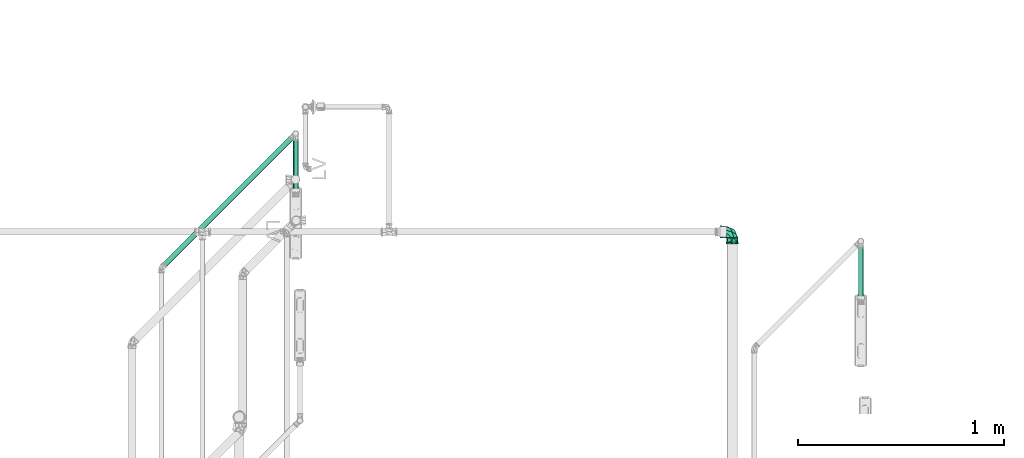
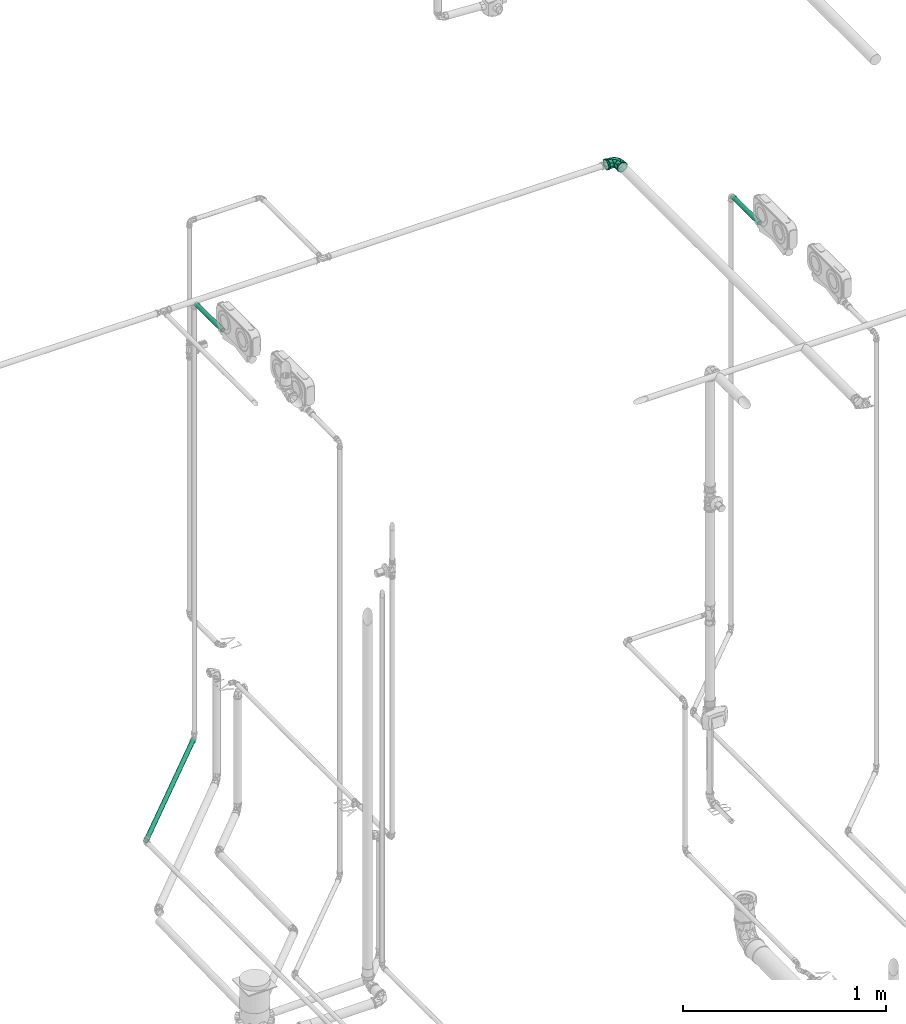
# One storey, part 108 of 589: 3 flow segments, 1 flow fitting.
"""IFC2X3 building model written with IfcOpenShell, lengths in millimetres."""

from ifc_helpers import new_model, entity, si_unit, converted_unit, derived_unit, direction, frame, frame_2d, origin, origin_2d_with_axis, place, context, subcontext, project, spatial, circle, extrude, faceted_brep, source, transform, mapped, material, type_object, type_shapes, element, save


model = new_model("IFC2X3")

# Units and contexts
model_context = context("Model", 3, precision=0.01, world=origin(), true_north=direction((6.123031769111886e-17, 1.0)))
body_context = subcontext(model_context, "Body", "Model", "MODEL_VIEW")
ifc_project = project(units=[si_unit("LENGTHUNIT", "METRE", prefix="MILLI"), si_unit("AREAUNIT", "SQUARE_METRE"), si_unit("VOLUMEUNIT", "CUBIC_METRE"), converted_unit("PLANEANGLEUNIT", "DEGREE", entity("IfcRatioMeasure", 0.017453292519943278), si_unit("PLANEANGLEUNIT", "RADIAN"), dimensions=[0, 0, 0, 0, 0, 0, 0]), si_unit("MASSUNIT", "GRAM", prefix="KILO"), derived_unit("MASSDENSITYUNIT", [(si_unit("MASSUNIT", "GRAM", prefix="KILO"), 1), (si_unit("LENGTHUNIT", "METRE"), -3)]), derived_unit("IONCONCENTRATIONUNIT", [(si_unit("MASSUNIT", "GRAM", prefix="KILO"), 1), (si_unit("LENGTHUNIT", "METRE"), -3)]), derived_unit("MOMENTOFINERTIAUNIT", [(si_unit("LENGTHUNIT", "METRE"), 4)]), si_unit("TIMEUNIT", "SECOND"), si_unit("FREQUENCYUNIT", "HERTZ"), si_unit("THERMODYNAMICTEMPERATUREUNIT", "DEGREE_CELSIUS"), derived_unit("THERMALTRANSMITTANCEUNIT", [(si_unit("MASSUNIT", "GRAM", prefix="KILO"), 1), (si_unit("THERMODYNAMICTEMPERATUREUNIT", "KELVIN"), -1), (si_unit("TIMEUNIT", "SECOND"), -3)]), derived_unit("THERMALCONDUCTANCEUNIT", [(si_unit("MASSUNIT", "GRAM", prefix="KILO"), 1), (si_unit("THERMODYNAMICTEMPERATUREUNIT", "KELVIN"), -1), (si_unit("TIMEUNIT", "SECOND"), -3), (si_unit("LENGTHUNIT", "METRE"), 1)]), derived_unit("VOLUMETRICFLOWRATEUNIT", [(si_unit("LENGTHUNIT", "METRE"), 3), (si_unit("TIMEUNIT", "SECOND"), -1)]), derived_unit("MASSFLOWRATEUNIT", [(si_unit("MASSUNIT", "GRAM", prefix="KILO"), 1), (si_unit("TIMEUNIT", "SECOND"), -1)]), derived_unit("ROTATIONALFREQUENCYUNIT", [(si_unit("TIMEUNIT", "SECOND"), -1)]), si_unit("ELECTRICCURRENTUNIT", "AMPERE"), si_unit("ELECTRICVOLTAGEUNIT", "VOLT"), si_unit("POWERUNIT", "WATT"), si_unit("FORCEUNIT", "NEWTON", prefix="KILO"), si_unit("ILLUMINANCEUNIT", "LUX"), si_unit("LUMINOUSFLUXUNIT", "LUMEN"), si_unit("LUMINOUSINTENSITYUNIT", "CANDELA"), derived_unit("USERDEFINED", [(si_unit("MASSUNIT", "GRAM", prefix="KILO"), -1), (si_unit("LENGTHUNIT", "METRE"), -2), (si_unit("TIMEUNIT", "SECOND"), 3), (si_unit("LUMINOUSFLUXUNIT", "LUMEN"), 1)]), derived_unit("USERDEFINED", [(si_unit("MASSUNIT", "GRAM", prefix="KILO"), 1), (si_unit("TIMEUNIT", "SECOND"), -3), (si_unit("LENGTHUNIT", "METRE"), 3), (si_unit("ELECTRICCURRENTUNIT", "AMPERE"), -2)]), derived_unit("SOUNDPOWERUNIT", [(si_unit("MASSUNIT", "GRAM", prefix="KILO"), 1), (si_unit("TIMEUNIT", "SECOND"), -3), (si_unit("LENGTHUNIT", "METRE"), 2)]), derived_unit("SOUNDPRESSUREUNIT", [(si_unit("MASSUNIT", "GRAM", prefix="KILO"), 1), (si_unit("LENGTHUNIT", "METRE"), -1), (si_unit("TIMEUNIT", "SECOND"), -2)]), derived_unit("LINEARVELOCITYUNIT", [(si_unit("LENGTHUNIT", "METRE"), 1), (si_unit("TIMEUNIT", "SECOND"), -1)]), si_unit("PRESSUREUNIT", "PASCAL"), derived_unit("USERDEFINED", [(si_unit("MASSUNIT", "GRAM", prefix="KILO"), 1), (si_unit("LENGTHUNIT", "METRE"), -2), (si_unit("TIMEUNIT", "SECOND"), -2)]), derived_unit("LINEARFORCEUNIT", [(si_unit("MASSUNIT", "GRAM", prefix="KILO"), 1), (si_unit("TIMEUNIT", "SECOND"), -2)]), derived_unit("PLANARFORCEUNIT", [(si_unit("MASSUNIT", "GRAM", prefix="KILO"), 1), (si_unit("LENGTHUNIT", "METRE"), -1), (si_unit("TIMEUNIT", "SECOND"), -2)]), derived_unit("SPECIFICHEATCAPACITYUNIT", [(si_unit("THERMODYNAMICTEMPERATUREUNIT", "KELVIN"), -1), (si_unit("LENGTHUNIT", "METRE"), 2), (si_unit("TIMEUNIT", "SECOND"), -2)]), derived_unit("HEATINGVALUEUNIT", [(si_unit("LENGTHUNIT", "METRE"), 2), (si_unit("TIMEUNIT", "SECOND"), -2)]), derived_unit("VAPORPERMEABILITYUNIT", [(si_unit("LENGTHUNIT", "METRE"), -1), (si_unit("TIMEUNIT", "SECOND"), 1)]), derived_unit("DYNAMICVISCOSITYUNIT", [(si_unit("MASSUNIT", "GRAM", prefix="KILO"), 1), (si_unit("TIMEUNIT", "SECOND"), -1), (si_unit("LENGTHUNIT", "METRE"), -1)]), derived_unit("THERMALEXPANSIONCOEFFICIENTUNIT", [(si_unit("THERMODYNAMICTEMPERATUREUNIT", "KELVIN"), -1)]), derived_unit("MODULUSOFELASTICITYUNIT", [(si_unit("MASSUNIT", "GRAM", prefix="KILO"), 1), (si_unit("LENGTHUNIT", "METRE"), -1), (si_unit("TIMEUNIT", "SECOND"), -2)]), derived_unit("ISOTHERMALMOISTURECAPACITYUNIT", [(si_unit("LENGTHUNIT", "METRE"), 3), (si_unit("MASSUNIT", "GRAM", prefix="KILO"), -1)]), derived_unit("MOISTUREDIFFUSIVITYUNIT", [(si_unit("TIMEUNIT", "SECOND"), -1), (si_unit("LENGTHUNIT", "METRE"), 2)])], contexts=[model_context])

# Site, building, storey
site_placement = place(None, origin())
site = spatial("IfcSite", under=ifc_project, at=site_placement, Name="Default", CompositionType="ELEMENT")
building_placement = place(site_placement, origin())
building = spatial("IfcBuilding", under=site, at=building_placement, CompositionType="ELEMENT")
storey_placement = place(building_placement, frame((0.0, 0.0, 100.0)))
storey = spatial("IfcBuildingStorey", under=building, at=storey_placement, Name="TÉRREO", CompositionType="ELEMENT", Elevation=100.0)

# Flow segments
pipe_segment_type = type_object("IfcPipeSegmentType", Name="Tipos de tubos:PVC Marrom Soldável", PredefinedType="NOTDEFINED")
flow_segment_1_placement = place(storey_placement, origin())
element("IfcFlowSegment", 1, at=flow_segment_1_placement, inside=storey, type_object=pipe_segment_type, Name="Tipos de tubos:PVC Marrom Soldável", ObjectType="Tipos de tubos:PVC Marrom Soldável", context=body_context, shape_type="SweptSolid", body=[
    extrude(circle(Radius=12.5, at=origin_2d_with_axis()), frame((3131.1245078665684, -6530.365493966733, 2579.1995800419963), z_axis=(0.0, 0.9999500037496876, -0.009999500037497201), x_axis=(1.0, 0.0, 0.0)), (0.0, 0.0, 1.0), 266.0970462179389),
])
flow_segment_2_placement = place(storey_placement, origin())
element("IfcFlowSegment", 2, at=flow_segment_2_placement, inside=storey, type_object=pipe_segment_type, Name="Tipos de tubos:PVC Marrom Soldável", ObjectType="Tipos de tubos:PVC Marrom Soldável", context=body_context, shape_type="SweptSolid", body=[
    extrude(circle(Radius=12.5, at=frame_2d((2.3914394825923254e-14, 7.878902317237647e-08), x_axis=(1.0, 0.0))), frame((-262.9865777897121, -6373.265741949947, -37.35714501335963), z_axis=(0.7071067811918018, 0.7071067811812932, 0.0), x_axis=(-0.7071067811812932, 0.7071067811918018, 0.0)), (0.0, 0.0, 1.0), 899.5650377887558),
])
flow_segment_3_placement = place(storey_placement, origin())
element("IfcFlowSegment", 3, at=flow_segment_3_placement, inside=storey, type_object=pipe_segment_type, Name="Tipos de tubos:PVC Marrom Soldável", ObjectType="Tipos de tubos:PVC Marrom Soldável", context=body_context, shape_type="SweptSolid", body=[
    extrude(circle(Radius=12.5, at=frame_2d((6.767919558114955e-14, -1.0828129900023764e-14), x_axis=(1.0, 0.0))), frame((384.83992247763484, -6007.964369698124, 2579.1995800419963), z_axis=(0.0, 0.9999500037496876, -0.009999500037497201), x_axis=(1.0, 0.0, 0.0)), (0.0, 0.0, 1.0), 266.0970462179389),
])

# Flow fitting
ifc_material = material(Name="PVC Marrom")
pipe_fitting_type = type_object("IfcPipeFittingType", Name="PVC Marrom Soldável_Joelho 45°_90°_Rodrigo MEP:Joelho", PredefinedType="NOTDEFINED", material=ifc_material)
shared_shape = source(origin(), body_context, "Body", "Brep", [
    faceted_brep([(-28.650000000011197, 29.100000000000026, 0.0), (-24.811627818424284, 29.100000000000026, 14.324999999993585), (-16.11339673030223, 29.100000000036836, 20.999387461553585), (-7.415165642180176, 29.10000000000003, 27.673774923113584), (7.415165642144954, 29.100000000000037, 27.67377492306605), (16.113396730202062, 29.100000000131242, 20.99938746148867), (24.811627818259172, 29.100000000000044, 14.324999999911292), (28.649999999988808, 29.100000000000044, 0.0), (24.811627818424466, 29.100000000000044, -14.32500000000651), (16.113396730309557, 29.09999999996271, -20.99938746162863), (7.41516564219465, 29.100000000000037, -27.673774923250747), (-7.4151656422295, 29.10000000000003, -27.673774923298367), (-16.11339673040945, 29.099999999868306, -20.999387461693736), (-24.811627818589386, 29.100000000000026, -14.325000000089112), (7.026937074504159, 27.400000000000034, 26.2248861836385), (-7.026937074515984, 27.400000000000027, 26.224886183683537), (-15.269763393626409, 27.400000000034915, 19.899943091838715), (-23.512589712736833, 27.400000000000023, 13.574999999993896), (-27.150000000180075, 27.400000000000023, 0.0), (-23.512589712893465, 27.400000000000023, -13.575000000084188), (-15.269763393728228, 27.39999999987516, -19.899943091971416), (-7.02693707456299, 27.400000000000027, -26.224886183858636), (7.026937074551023, 27.400000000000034, -26.224886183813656), (15.269763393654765, 27.399999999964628, -19.899943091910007), (23.51258971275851, 27.40000000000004, -13.575000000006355), (27.149999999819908, 27.40000000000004, 0.0), (23.512589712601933, 27.40000000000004, 13.574999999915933), (15.269763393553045, 27.400000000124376, 19.899943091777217)], [[[0, 1, 2, 3, 4, 5, 6, 7, 8, 9, 10, 11, 12, 13]], [[14, 15, 16, 17, 18, 19, 20, 21, 22, 23, 24, 25, 26, 27]], [[8, 7, 25, 24]], [[10, 9, 8, 24, 23, 22]], [[20, 19, 13, 12, 11, 21]], [[22, 21, 11, 10]], [[0, 13, 19, 18]], [[1, 0, 18, 17]], [[3, 2, 1, 17, 16, 15]], [[27, 26, 6, 5, 4, 14]], [[15, 14, 4, 3]], [[7, 6, 26, 25]]]),
    faceted_brep([(-29.09999999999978, -28.650000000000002, 0.0), (-29.09999999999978, -24.811627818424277, 14.32500000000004), (-29.09999999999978, -16.113396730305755, 20.99938746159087), (-29.09999999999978, -7.415165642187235, 27.673774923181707), (-29.09999999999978, 7.415165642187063, 27.6737749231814), (-29.10000000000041, 16.113396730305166, 20.999387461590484), (-29.09999999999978, 24.81162781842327, 14.324999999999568), (-29.09999999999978, 28.649999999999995, 0.0), (-29.09999999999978, 24.811627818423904, -14.324999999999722), (-29.10000000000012, 16.11339673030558, -20.999387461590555), (-29.09999999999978, 7.415165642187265, -27.67377492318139), (-29.09999999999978, -7.415165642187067, -27.67377492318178), (-29.099999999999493, -16.113396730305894, -20.99938746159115), (-29.09999999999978, -24.81162781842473, -14.325000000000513), (-27.39999999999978, 23.512589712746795, 13.574999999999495), (-27.40000000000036, 15.269763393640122, 19.89994309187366), (-27.39999999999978, 7.026937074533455, 26.22488618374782), (-27.39999999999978, -7.02693707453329, 26.224886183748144), (-27.399999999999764, -15.269763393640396, 19.89994309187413), (-27.39999999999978, -23.512589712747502, 13.575000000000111), (-27.39999999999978, -27.150000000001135, 0.0), (-27.39999999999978, -23.51258971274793, -13.575000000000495), (-27.399999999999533, -15.269763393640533, -19.899943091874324), (-27.39999999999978, -7.026937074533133, -26.224886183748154), (-27.39999999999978, 7.026937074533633, -26.22488618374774), (-27.400000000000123, 15.269763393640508, -19.899943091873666), (-27.39999999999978, 23.512589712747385, -13.574999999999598), (-27.39999999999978, 27.149999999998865, 0.0)], [[[0, 1, 2, 3, 4, 5, 6, 7, 8, 9, 10, 11, 12, 13]], [[14, 15, 16, 17, 18, 19, 20, 21, 22, 23, 24, 25, 26, 27]], [[8, 7, 27, 26]], [[10, 9, 8, 26, 25, 24]], [[22, 21, 13, 12, 11, 23]], [[24, 23, 11, 10]], [[0, 13, 21, 20]], [[1, 0, 20, 19]], [[3, 2, 1, 19, 18, 17]], [[15, 14, 6, 5, 4, 16]], [[17, 16, 4, 3]], [[7, 6, 14, 27]]]),
    faceted_brep([(-59.59999999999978, -7.958685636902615, -29.702219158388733), (-59.59999999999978, 0.0, -25.0), (-59.59999999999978, 7.958685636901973, -29.702219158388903), (-59.59999999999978, -12.500000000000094, -21.650635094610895), (-59.59999999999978, -26.630281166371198, -15.375000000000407), (-59.59999999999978, -24.148145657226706, -6.4704761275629), (-59.59999999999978, -30.749999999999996, 0.0), (-59.59999999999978, -24.148145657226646, 6.470476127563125), (-59.59999999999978, -26.630281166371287, 15.37499999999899), (-59.59999999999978, -12.499999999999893, 21.65063509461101), (-59.59999999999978, -7.958685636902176, 29.702219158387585), (-59.59999999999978, 0.0, 25.0), (-59.59999999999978, 7.958685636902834, 29.70221915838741), (-59.59999999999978, 12.499999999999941, 21.650635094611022), (-59.59999999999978, 26.630281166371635, 15.374999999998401), (-59.59999999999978, 24.14814565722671, 6.470476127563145), (-59.59999999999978, 30.750000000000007, 0.0), (-59.59999999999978, 24.14814565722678, -6.470476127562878), (-59.59999999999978, 26.63028116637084, -15.375000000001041), (-59.59999999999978, 12.500000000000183, -21.65063509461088), (-52.09999999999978, 30.750000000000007, 0.0), (-52.10000000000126, 23.555335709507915, 19.76635170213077), (-52.100000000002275, 5.338054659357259, 30.28312520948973), (-52.10000000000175, -23.557724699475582, 19.763504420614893), (-52.09999999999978, -30.749999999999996, 0.0), (-52.10000000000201, -9.109835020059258, 25.023314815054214), (-52.09999999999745, -23.557724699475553, -19.76350442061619), (-52.09999999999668, -5.34171494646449, -30.28247977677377), (-52.09999999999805, 23.5553357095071, -19.766351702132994), (-52.09999999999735, 9.106810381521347, -25.02441573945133), (-49.10000000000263, 4.971874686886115, 28.21529659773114), (-49.09999999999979, -28.650000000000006, 0.0), (-49.100000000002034, -21.95076584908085, 18.41158273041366), (-49.10000000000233, -8.489445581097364, 23.3134396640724), (-49.100000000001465, 21.94614669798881, 18.417088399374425), (-49.0999999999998, 28.649999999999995, 0.0), (-49.09999999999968, 21.946146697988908, -18.41708839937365), (-49.09999999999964, 8.483597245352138, -23.31556846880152), (-49.09999999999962, -21.95076584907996, -18.411582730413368), (-49.099999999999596, -4.978952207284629, -28.214048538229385), (-29.09999999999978, -12.500000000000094, -21.650635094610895), (-29.09999999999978, -7.415165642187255, -27.6737749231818), (-29.09999999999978, 0.0, -25.0), (-29.09999999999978, -24.811627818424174, -14.324999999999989), (-29.09999999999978, -24.148145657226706, -6.4704761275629), (-29.09999999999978, -28.650000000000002, 0.0), (-29.09999999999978, -24.148145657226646, 6.470476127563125), (-29.09999999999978, -24.811627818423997, 14.3250000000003), (-29.09999999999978, -12.499999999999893, 21.65063509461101), (-29.09999999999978, -7.41516564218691, 27.67377492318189), (-29.09999999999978, 0.0, 25.0), (-29.09999999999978, 7.415165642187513, 27.67377492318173), (-29.09999999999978, 12.499999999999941, 21.650635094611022), (-29.09999999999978, 24.811627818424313, 14.32499999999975), (-29.09999999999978, 24.14814565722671, 6.470476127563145), (-29.09999999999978, 28.650000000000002, 0.0), (-29.09999999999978, 24.14814565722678, -6.470476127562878), (-29.09999999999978, 24.81162781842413, -14.325000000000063), (-29.09999999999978, 12.500000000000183, -21.65063509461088), (-29.09999999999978, 7.415165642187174, -27.67377492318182)], [[[0, 1, 2]], [[1, 0, 3]], [[4, 3, 0]], [[3, 4, 5]], [[5, 4, 6]], [[7, 5, 6]], [[7, 6, 8]], [[8, 9, 7]], [[8, 10, 9]], [[9, 10, 11]], [[12, 11, 10]], [[13, 11, 12]], [[13, 12, 14]], [[14, 15, 13]], [[15, 14, 16]], [[15, 16, 17]], [[18, 17, 16]], [[2, 19, 18]], [[17, 18, 19]], [[19, 2, 1]], [[16, 14, 20]], [[14, 21, 20]], [[21, 14, 12]], [[21, 12, 22]], [[23, 10, 8]], [[24, 8, 6]], [[10, 23, 25, 22]], [[23, 8, 24]], [[10, 22, 12]], [[6, 4, 24]], [[4, 26, 24]], [[26, 4, 0]], [[26, 0, 27]], [[28, 2, 18]], [[20, 18, 16]], [[2, 28, 29, 27]], [[28, 18, 20]], [[2, 27, 0]], [[25, 30, 22]], [[31, 32, 24]], [[24, 32, 23]], [[23, 33, 25]], [[34, 35, 21]], [[23, 32, 33]], [[21, 22, 34]], [[20, 21, 35]], [[30, 25, 33]], [[34, 22, 30]], [[35, 36, 28]], [[28, 20, 35]], [[36, 29, 28]], [[36, 37, 29]], [[37, 27, 29]], [[38, 31, 24]], [[38, 26, 39]], [[26, 38, 24]], [[27, 37, 39]], [[39, 26, 27]], [[40, 41, 42]], [[43, 41, 40]], [[40, 44, 43]], [[44, 45, 43]], [[46, 45, 44]], [[45, 46, 47]], [[48, 47, 46]], [[47, 48, 49]], [[50, 49, 48]], [[51, 49, 50]], [[52, 51, 50]], [[51, 52, 53]], [[54, 53, 52]], [[53, 54, 55]], [[55, 54, 56]], [[55, 56, 57]], [[57, 56, 58]], [[58, 42, 59]], [[59, 57, 58]], [[41, 59, 42]], [[35, 34, 53]], [[35, 53, 55]], [[53, 34, 51]], [[34, 30, 51]], [[49, 30, 33, 32]], [[47, 32, 31]], [[32, 47, 49]], [[47, 31, 45]], [[30, 49, 51]], [[31, 38, 43]], [[31, 43, 45]], [[43, 38, 41]], [[38, 39, 41]], [[59, 39, 37, 36]], [[57, 36, 35]], [[36, 57, 59]], [[57, 35, 55]], [[39, 59, 41]], [[9, 11, 50, 48]], [[7, 9, 48, 46]], [[46, 44, 5, 7]], [[3, 5, 44, 40]], [[1, 3, 40, 42]], [[19, 1, 42, 58]], [[17, 19, 58, 56]], [[56, 54, 15, 17]], [[13, 15, 54, 52]], [[11, 13, 52, 50]]]),
    faceted_brep([(-27.39999999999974, 7.026937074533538, -26.224886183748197), (-27.399999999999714, -7.026937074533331, -26.224886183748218), (-27.399999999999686, -23.51258971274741, -13.575000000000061), (-27.399999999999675, -27.149999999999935, 0.0), (-27.399999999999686, -23.512589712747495, 13.574999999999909), (-27.399999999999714, -7.026937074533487, 26.224886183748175), (-27.39999999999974, 7.026937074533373, 26.22488618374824), (-27.399999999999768, 23.512589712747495, 13.57500000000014), (-27.39999999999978, 27.150000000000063, 0.0), (-27.399999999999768, 23.51258971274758, -13.574999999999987), (-7.026937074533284, 27.399999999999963, -26.224886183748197), (-23.512589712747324, 27.40000000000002, -13.574999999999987), (-27.14999999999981, 27.40000000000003, 0.0), (-23.51258971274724, 27.40000000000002, 13.57500000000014), (-7.026937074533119, 27.399999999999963, 26.22488618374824), (7.026937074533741, 27.39999999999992, 26.224886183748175), (23.512589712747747, 27.399999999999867, 13.574999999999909), (27.15000000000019, 27.399999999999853, 0.0), (23.512589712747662, 27.399999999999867, -13.575000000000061), (7.026937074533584, 27.39999999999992, -26.224886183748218), (-0.7421356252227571, 0.7421330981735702, 25.120395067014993), (-9.561084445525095, -17.668940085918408, 17.12121907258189), (-2.9564114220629, -17.02513409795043, 0.0), (11.17267491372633, -11.172674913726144, 0.0), (17.668938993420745, 9.561081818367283, 17.12121913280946), (-27.22322330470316, 27.223223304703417, 0.0), (-15.959081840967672, 15.95908155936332, 24.723104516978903), (17.025133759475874, 2.956410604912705, 0.0), (-9.561084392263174, -17.668940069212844, -17.12121906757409), (-15.959081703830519, 15.9590814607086, -24.723104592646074), (-0.7421353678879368, 0.7421331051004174, -25.120394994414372), (17.668938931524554, 9.561081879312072, -17.121219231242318)], [[[0, 1, 2, 3, 4, 5, 6, 7, 8, 9]], [[10, 11, 12, 13, 14, 15, 16, 17, 18, 19]], [[5, 20, 6]], [[21, 4, 22]], [[23, 21, 22]], [[15, 20, 24]], [[21, 5, 4]], [[25, 7, 13]], [[23, 24, 20]], [[25, 8, 7]], [[7, 6, 26]], [[4, 3, 22]], [[20, 21, 23]], [[27, 17, 16]], [[20, 26, 6]], [[20, 5, 21]], [[24, 27, 16]], [[7, 26, 13]], [[25, 13, 12]], [[24, 16, 15]], [[20, 14, 26]], [[14, 13, 26]], [[24, 23, 27]], [[14, 20, 15]], [[28, 23, 22]], [[28, 2, 1]], [[29, 9, 11]], [[29, 30, 0]], [[3, 2, 22]], [[30, 19, 31]], [[2, 28, 22]], [[30, 1, 0]], [[23, 28, 30]], [[30, 29, 10]], [[9, 8, 25]], [[25, 12, 11]], [[23, 31, 27]], [[1, 30, 28]], [[11, 10, 29]], [[30, 10, 19]], [[18, 17, 27]], [[23, 30, 31]], [[9, 29, 0]], [[31, 19, 18]], [[18, 27, 31]], [[11, 9, 25]]]),
    faceted_brep([(-12.499999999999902, 29.100000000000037, -21.650635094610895), (-7.415165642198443, 29.100000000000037, -27.6737749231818), (0.0, 29.100000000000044, -25.0), (-24.81162781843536, 29.100000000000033, -14.324999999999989), (-24.148145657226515, 29.100000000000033, -6.4704761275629), (-28.650000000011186, 29.100000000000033, 0.0), (-24.148145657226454, 29.100000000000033, 6.470476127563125), (-24.81162781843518, 29.100000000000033, 14.3250000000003), (-12.4999999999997, 29.100000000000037, 21.65063509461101), (-7.4151656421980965, 29.100000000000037, 27.67377492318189), (0.0, 29.100000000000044, 25.0), (7.415165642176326, 29.100000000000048, 27.67377492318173), (12.500000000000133, 29.100000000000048, 21.650635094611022), (24.811627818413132, 29.10000000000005, 14.32499999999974), (24.148145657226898, 29.10000000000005, 6.470476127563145), (28.649999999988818, 29.10000000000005, 0.0), (24.148145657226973, 29.10000000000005, -6.470476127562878), (24.811627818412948, 29.10000000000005, -14.325000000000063), (12.500000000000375, 29.100000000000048, -21.65063509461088), (7.415165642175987, 29.100000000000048, -27.67377492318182), (28.64999999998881, 49.100000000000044, 0.0), (21.94614669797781, 49.10000000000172, 18.417088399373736), (8.483597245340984, 49.100000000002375, 23.315568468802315), (-4.978952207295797, 49.100000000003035, 28.2140485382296), (-21.950765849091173, 49.10000000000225, 18.41158273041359), (-28.65000000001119, 49.10000000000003, 0.0), (-21.95076584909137, 49.09999999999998, -18.411582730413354), (-8.48944558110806, 49.09999999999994, -23.313439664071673), (4.971874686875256, 49.09999999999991, -28.215296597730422), (21.94614669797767, 49.099999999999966, -18.417088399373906), (-23.55533570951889, 52.10000000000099, 19.766351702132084), (-30.750000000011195, 52.10000000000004, 0.0), (-5.33805465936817, 52.10000000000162, 30.283125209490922), (23.557724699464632, 52.10000000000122, 19.763504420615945), (9.10983502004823, 52.10000000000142, 25.023314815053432), (30.749999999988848, 52.100000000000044, 0.0), (23.557724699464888, 52.10000000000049, -19.763504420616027), (5.3417149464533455, 52.10000000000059, -30.282479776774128), (-23.55533570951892, 52.100000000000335, -19.76635170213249), (-9.106810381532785, 52.10000000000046, -25.02441573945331), (-7.958685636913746, 59.60000000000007, -29.702219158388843), (-12.499999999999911, 59.600000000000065, -21.650635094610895), (0.0, 59.60000000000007, -25.0), (-26.63028116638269, 59.600000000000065, -15.374999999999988), (7.95868563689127, 59.60000000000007, -29.702219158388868), (-24.14814565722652, 59.600000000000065, -6.4704761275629), (-30.750000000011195, 59.60000000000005, 0.0), (-24.148145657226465, 59.600000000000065, 6.470476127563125), (-26.630281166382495, 59.600000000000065, 15.375000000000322), (-12.49999999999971, 59.600000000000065, 21.65063509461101), (-7.958685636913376, 59.60000000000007, 29.70221915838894), (0.0, 59.60000000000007, 25.0), (7.958685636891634, 59.60000000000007, 29.702219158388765), (12.500000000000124, 59.60000000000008, 21.650635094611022), (26.630281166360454, 59.60000000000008, 15.374999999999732), (24.14814565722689, 59.60000000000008, 6.470476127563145), (30.74999999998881, 59.60000000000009, 0.0), (24.148145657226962, 59.60000000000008, -6.470476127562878), (26.63028116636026, 59.60000000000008, -15.37500000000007), (12.500000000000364, 59.60000000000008, -21.65063509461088)], [[[0, 1, 2]], [[3, 1, 0]], [[0, 4, 3]], [[4, 5, 3]], [[6, 5, 4]], [[5, 6, 7]], [[8, 7, 6]], [[7, 8, 9]], [[10, 9, 8]], [[11, 9, 10]], [[12, 11, 10]], [[11, 12, 13]], [[14, 13, 12]], [[13, 14, 15]], [[15, 14, 16]], [[15, 16, 17]], [[17, 16, 18]], [[18, 2, 19]], [[19, 17, 18]], [[1, 19, 2]], [[20, 21, 13]], [[20, 13, 15]], [[13, 21, 11]], [[11, 21, 22, 23]], [[9, 23, 24]], [[7, 24, 25]], [[24, 7, 9]], [[7, 25, 5]], [[23, 9, 11]], [[25, 26, 3]], [[25, 3, 5]], [[3, 26, 1]], [[1, 26, 27, 28]], [[19, 28, 29]], [[17, 29, 20]], [[29, 17, 19]], [[17, 20, 15]], [[28, 19, 1]], [[24, 23, 30]], [[25, 24, 31]], [[31, 24, 30]], [[23, 32, 30]], [[21, 20, 33]], [[21, 33, 34]], [[22, 32, 23]], [[35, 33, 20]], [[32, 22, 34]], [[22, 21, 34]], [[20, 29, 36]], [[36, 35, 20]], [[37, 36, 29]], [[38, 39, 27]], [[29, 28, 37]], [[26, 25, 31]], [[38, 27, 26]], [[38, 26, 31]], [[28, 39, 37]], [[39, 28, 27]], [[40, 41, 42]], [[41, 40, 43]], [[42, 44, 40]], [[43, 45, 41]], [[43, 46, 45]], [[45, 46, 47]], [[48, 47, 46]], [[47, 48, 49]], [[50, 49, 48]], [[49, 50, 51]], [[51, 50, 52]], [[52, 53, 51]], [[54, 53, 52]], [[53, 54, 55]], [[56, 55, 54]], [[56, 57, 55]], [[58, 57, 56]], [[59, 57, 58]], [[59, 58, 44]], [[44, 42, 59]], [[56, 54, 35]], [[54, 33, 35]], [[33, 54, 52]], [[52, 32, 34, 33]], [[30, 50, 48]], [[31, 48, 46]], [[50, 30, 32]], [[30, 48, 31]], [[50, 32, 52]], [[46, 43, 31]], [[43, 38, 31]], [[38, 43, 40]], [[40, 37, 39, 38]], [[36, 44, 58]], [[35, 58, 56]], [[44, 36, 37]], [[36, 58, 35]], [[44, 37, 40]], [[49, 51, 10, 8]], [[47, 49, 8, 6]], [[6, 4, 45, 47]], [[41, 45, 4, 0]], [[42, 41, 0, 2]], [[59, 42, 2, 18]], [[57, 59, 18, 16]], [[16, 14, 55, 57]], [[53, 55, 14, 12]], [[51, 53, 12, 10]]]),
])
type_shapes(pipe_fitting_type, [shared_shape])
flow_fitting_placement = place(storey_placement, frame((2506.286102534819, -6202.625782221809, 2970.0), z_axis=(0.0, 0.0, 1.0), x_axis=(0.0, 1.0, 0.0)))
element("IfcFlowFitting", 4, at=flow_fitting_placement, inside=storey, type_object=pipe_fitting_type, material=ifc_material, Name="PVC Marrom Soldável_Joelho 45°_90°_Rodrigo MEP:Joelho", ObjectType="PVC Marrom Soldável_Joelho 45°_90°_Rodrigo MEP:Joelho", context=body_context, shape_type="MappedRepresentation", body=[
    mapped(shared_shape, transform((0.0, 0.0, 0.0), scale=1.0)),
])

save(model, "model.ifc")
